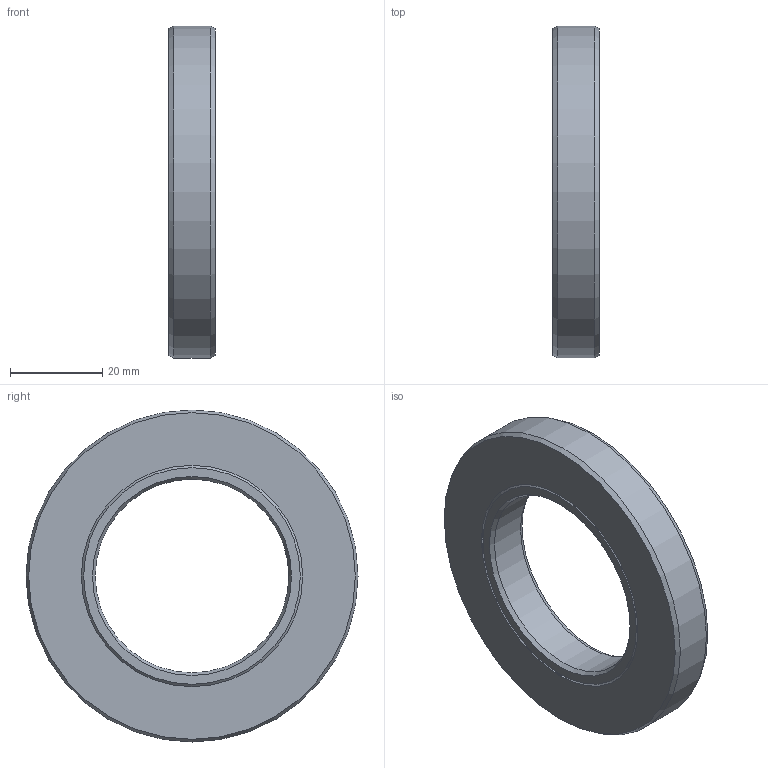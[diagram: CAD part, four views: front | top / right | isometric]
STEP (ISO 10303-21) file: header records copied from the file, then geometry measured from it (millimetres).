
FILE_DESCRIPTION(/* description */ (''),/* implementation_level */ '2;1');
FILE_NAME(/* name */ '301580 S42x72x10.stp',/* time_stamp */ '2016-12-16T13:44:42+01:00',/* author */ (''),/* organization */ (''),/* preprocessor_version */ 'ST-DEVELOPER v15',/* originating_system */ 'SIEMENS PLM Software NX 8.5',/* authorisation */ '');
FILE_SCHEMA (('CONFIG_CONTROL_DESIGN'));
Length unit declared in the file: millimetre
Products named in the file (1): ATE0000143_01
Bounding box: 10 x 72 x 72 mm (x, y, z)
Volume: 25805.6 mm3; surface area: 12906 mm2
Topology: 2 solids, 2 shells, 16 faces, 30 edges, 18 vertices
Faces by surface type: cone 10, plane 4, cylinder 2
Full cylindrical faces by diameter (mm): 42 x1, 72 x1
Entity records: 414 total; most frequent: DIRECTION 66, CARTESIAN_POINT 49, AXIS2_PLACEMENT_3D 33, FACE_BOUND 32, EDGE_LOOP 32, ORIENTED_EDGE 32, ADVANCED_FACE 16, VERTEX_POINT 16
